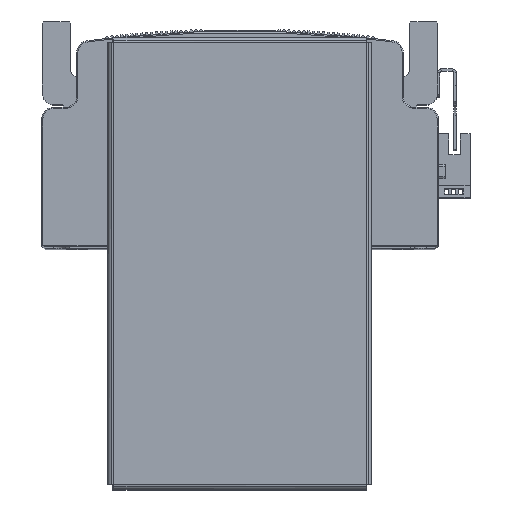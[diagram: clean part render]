
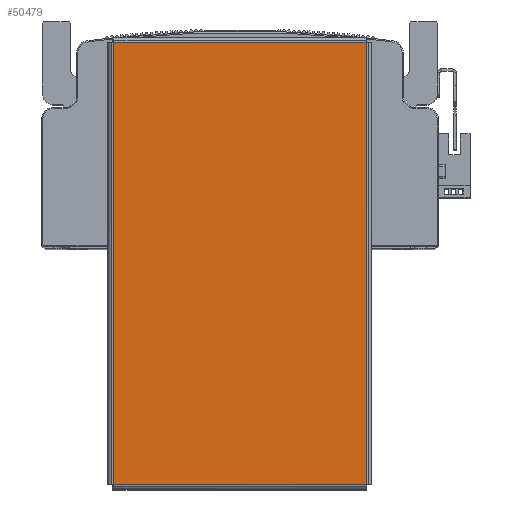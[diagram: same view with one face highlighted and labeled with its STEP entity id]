
A CAD part, top view. The second image highlights one B-rep face of the part: STEP entity #50479.
In plain terms, the highlighted planar face has unit normal (0, 0, 1) as drawn and (0, -1, 0) by its records, which use the part's own axes.
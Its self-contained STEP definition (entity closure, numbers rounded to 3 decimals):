
#18782 = PLANE ( 'NONE',  #57189 ) ;
#18784 = CARTESIAN_POINT ( 'NONE',  ( 0., -1.5, 0. ) ) ;
#18793 = DIRECTION ( 'NONE',  ( 0., 0., 1. ) ) ;
#18864 = DIRECTION ( 'NONE',  ( 0., 1., 0. ) ) ;
#41024 = VECTOR ( 'NONE', #53435, 1000. ) ;
#41096 = LINE ( 'NONE', #53412, #41024 ) ;
#41122 = LINE ( 'NONE', #53425, #41124 ) ;
#41124 = VECTOR ( 'NONE', #53413, 1000. ) ;
#41150 = VECTOR ( 'NONE', #53450, 1000. ) ;
#41210 = LINE ( 'NONE', #53444, #41150 ) ;
#41262 = LINE ( 'NONE', #53422, #41270 ) ;
#41270 = VECTOR ( 'NONE', #53419, 1000. ) ;
#41792 = EDGE_LOOP ( 'NONE', ( #46838, #46861, #45765, #46848 ) ) ;
#45765 = ORIENTED_EDGE ( 'NONE', *, *, #54723, .T. ) ;
#46838 = ORIENTED_EDGE ( 'NONE', *, *, #54719, .T. ) ;
#46848 = ORIENTED_EDGE ( 'NONE', *, *, #54736, .T. ) ;
#46861 = ORIENTED_EDGE ( 'NONE', *, *, #54720, .T. ) ;
#47321 = CARTESIAN_POINT ( 'NONE',  ( 94.763, -1.5, 54.363 ) ) ;
#47407 = CARTESIAN_POINT ( 'NONE',  ( -94.763, -1.5, -54.363 ) ) ;
#47442 = CARTESIAN_POINT ( 'NONE',  ( -94.763, -1.5, 54.363 ) ) ;
#47469 = CARTESIAN_POINT ( 'NONE',  ( 94.763, -1.5, -54.363 ) ) ;
#50479 = ADVANCED_FACE ( 'NONE', ( #58608 ), #18782, .F. ) ;
#53412 = CARTESIAN_POINT ( 'NONE',  ( 94.793, -1.5, 54.363 ) ) ;
#53413 = DIRECTION ( 'NONE',  ( 0., 0., -1. ) ) ;
#53419 = DIRECTION ( 'NONE',  ( 1., 0., 0. ) ) ;
#53422 = CARTESIAN_POINT ( 'NONE',  ( -94.793, -1.5, -54.363 ) ) ;
#53425 = CARTESIAN_POINT ( 'NONE',  ( -94.763, -1.5, 54.393 ) ) ;
#53435 = DIRECTION ( 'NONE',  ( -1., 0., 0. ) ) ;
#53444 = CARTESIAN_POINT ( 'NONE',  ( 94.763, -1.5, -54.393 ) ) ;
#53450 = DIRECTION ( 'NONE',  ( 0., 0., 1. ) ) ;
#54719 = EDGE_CURVE ( 'NONE', #64050, #64212, #41096, .T. ) ;
#54720 = EDGE_CURVE ( 'NONE', #64212, #64180, #41122, .T. ) ;
#54723 = EDGE_CURVE ( 'NONE', #64180, #64213, #41262, .T. ) ;
#54736 = EDGE_CURVE ( 'NONE', #64213, #64050, #41210, .T. ) ;
#57189 = AXIS2_PLACEMENT_3D ( 'NONE', #18784, #18864, #18793 ) ;
#58608 = FACE_OUTER_BOUND ( 'NONE', #41792, .T. ) ;
#64050 = VERTEX_POINT ( 'NONE', #47321 ) ;
#64180 = VERTEX_POINT ( 'NONE', #47407 ) ;
#64212 = VERTEX_POINT ( 'NONE', #47442 ) ;
#64213 = VERTEX_POINT ( 'NONE', #47469 ) ;
